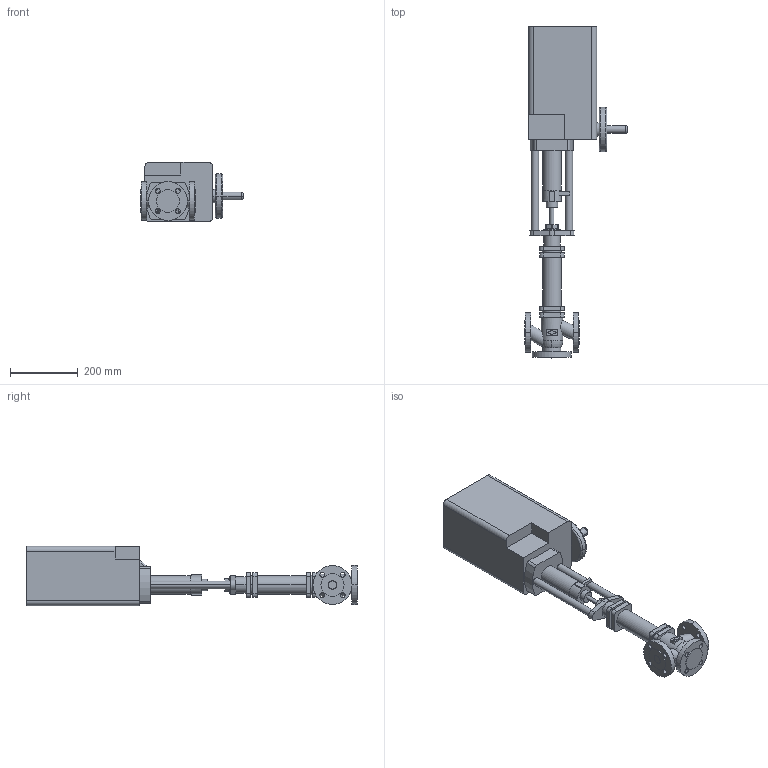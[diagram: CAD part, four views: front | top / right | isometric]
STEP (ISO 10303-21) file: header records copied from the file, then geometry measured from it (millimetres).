
FILE_DESCRIPTION(('OneSpaceDesigner STEP Export'),'2;1');
FILE_NAME('c000002470.stp','2006-09-21T12:00:45',(''),(''),'OneSpace Designer STEP processor for AP214 (Solid Model)','OneSpace Designer 13.20A 18-Aug-2005 (C) CoCreate Software GmbH','');
FILE_SCHEMA(('AUTOMOTIVE_DESIGN { 1 0 10303 214 1 1 1 1 }'));
Length unit declared in the file: millimetre
Products named in the file (2): 1; 2
Bounding box: 301.6 x 977.5 x 175 mm (x, y, z)
Volume: 14367629.5 mm3; surface area: 622790.3 mm2
Topology: 2 solids, 2 shells, 231 faces, 574 edges, 382 vertices
Faces by surface type: cylinder 118, plane 105, torus 8
Entity records: 6705 total; most frequent: CARTESIAN_POINT 1418, ORIENTED_EDGE 1148, DIRECTION 1007, EDGE_CURVE 574, VERTEX_POINT 382, AXIS2_PLACEMENT_3D 356, VECTOR 295, LINE 295
